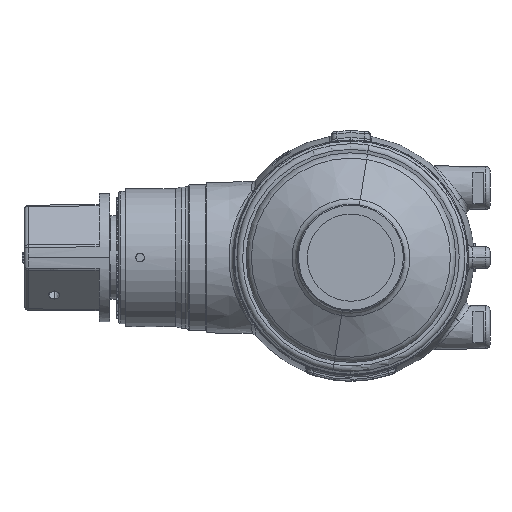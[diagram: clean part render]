
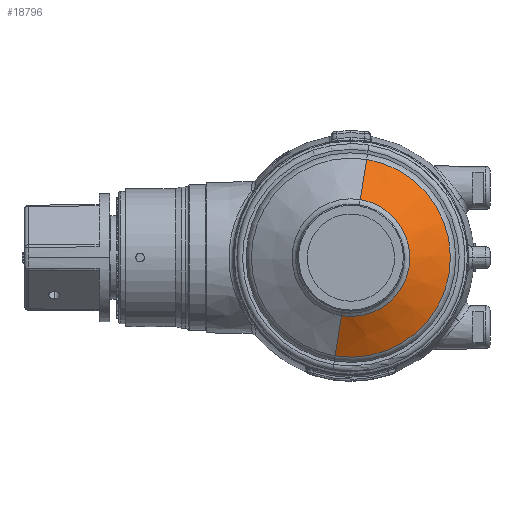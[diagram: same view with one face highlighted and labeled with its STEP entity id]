
A CAD part, left-side view. The second image highlights one B-rep face of the part: STEP entity #18796.
In plain terms, the highlighted conical face has half-angle 60 degrees and reference radius 25 mm.
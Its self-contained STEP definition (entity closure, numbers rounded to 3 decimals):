
#586 = VECTOR ( 'NONE', #42342, 1000. ) ;
#804 = VERTEX_POINT ( 'NONE', #2727 ) ;
#1380 = DIRECTION ( 'NONE',  ( 0.5, 0.137, -0.855 ) ) ;
#2585 = CARTESIAN_POINT ( 'NONE',  ( -86.402, -3.564, -45.911 ) ) ;
#2727 = CARTESIAN_POINT ( 'NONE',  ( -86.402, -18.315, 45.911 ) ) ;
#5176 = VECTOR ( 'NONE', #1380, 1000. ) ;
#5280 = LINE ( 'NONE', #56177, #5176 ) ;
#5844 = LINE ( 'NONE', #24073, #586 ) ;
#7489 = CARTESIAN_POINT ( 'NONE',  ( -97.372, -15.301, 27.152 ) ) ;
#8793 = ORIENTED_EDGE ( 'NONE', *, *, #45772, .T. ) ;
#12797 = VERTEX_POINT ( 'NONE', #7489 ) ;
#13998 = EDGE_CURVE ( 'NONE', #37242, #41323, #5280, .T. ) ;
#18796 = ADVANCED_FACE ( 'NONE', ( #52604 ), #24026, .T. ) ;
#19745 = EDGE_CURVE ( 'NONE', #41323, #804, #51837, .T. ) ;
#23327 = DIRECTION ( 'NONE',  ( -1., 0., 0. ) ) ;
#24026 = CONICAL_SURFACE ( 'NONE', #47991, 25., 1.047 ) ;
#24073 = CARTESIAN_POINT ( 'NONE',  ( -98.815, -14.905, 24.684 ) ) ;
#25425 = ORIENTED_EDGE ( 'NONE', *, *, #25776, .F. ) ;
#25776 = EDGE_CURVE ( 'NONE', #12797, #804, #5844, .T. ) ;
#26004 = AXIS2_PLACEMENT_3D ( 'NONE', #36799, #23327, #41293 ) ;
#27211 = CIRCLE ( 'NONE', #58820, 27.5 ) ;
#29837 = CARTESIAN_POINT ( 'NONE',  ( -98.815, -10.94, 0. ) ) ;
#36421 = ORIENTED_EDGE ( 'NONE', *, *, #13998, .T. ) ;
#36799 = CARTESIAN_POINT ( 'NONE',  ( -86.402, -10.94, 0. ) ) ;
#37242 = VERTEX_POINT ( 'NONE', #39738 ) ;
#37361 = DIRECTION ( 'NONE',  ( 1., 0., 0. ) ) ;
#39738 = CARTESIAN_POINT ( 'NONE',  ( -97.372, -6.578, -27.152 ) ) ;
#41293 = DIRECTION ( 'NONE',  ( 0., 0.159, -0.987 ) ) ;
#41323 = VERTEX_POINT ( 'NONE', #2585 ) ;
#41799 = EDGE_LOOP ( 'NONE', ( #8793, #36421, #50237, #25425 ) ) ;
#42342 = DIRECTION ( 'NONE',  ( 0.5, -0.137, 0.855 ) ) ;
#42771 = DIRECTION ( 'NONE',  ( 0., -0.159, 0.987 ) ) ;
#45772 = EDGE_CURVE ( 'NONE', #12797, #37242, #27211, .T. ) ;
#46968 = CARTESIAN_POINT ( 'NONE',  ( -97.372, -10.94, 0. ) ) ;
#47511 = DIRECTION ( 'NONE',  ( 0., -0.159, 0.987 ) ) ;
#47991 = AXIS2_PLACEMENT_3D ( 'NONE', #29837, #57699, #47511 ) ;
#50237 = ORIENTED_EDGE ( 'NONE', *, *, #19745, .T. ) ;
#51837 = CIRCLE ( 'NONE', #26004, 46.5 ) ;
#52604 = FACE_OUTER_BOUND ( 'NONE', #41799, .T. ) ;
#56177 = CARTESIAN_POINT ( 'NONE',  ( -98.815, -6.975, -24.684 ) ) ;
#57699 = DIRECTION ( 'NONE',  ( 1., 0., 0. ) ) ;
#58820 = AXIS2_PLACEMENT_3D ( 'NONE', #46968, #37361, #42771 ) ;
